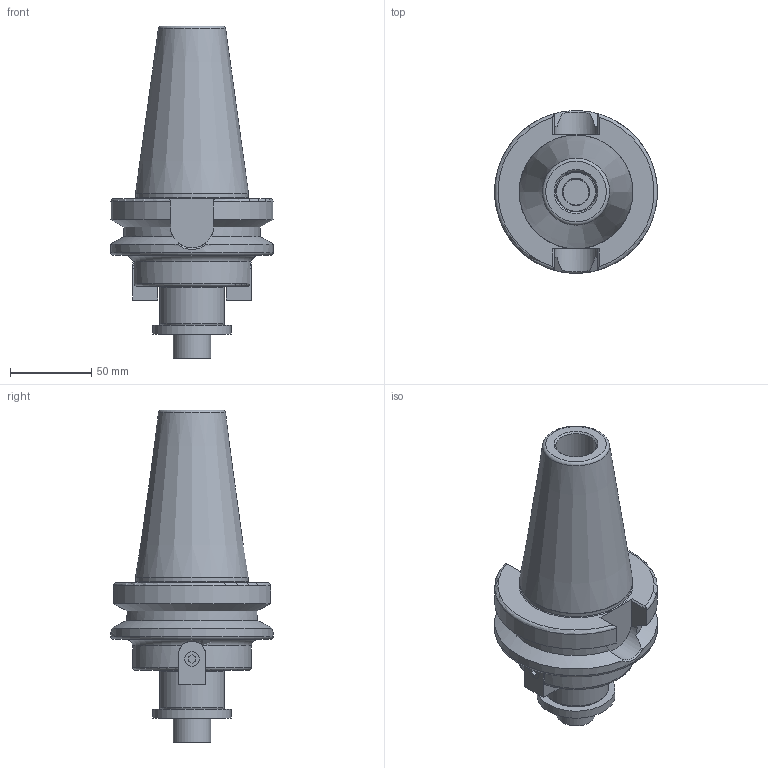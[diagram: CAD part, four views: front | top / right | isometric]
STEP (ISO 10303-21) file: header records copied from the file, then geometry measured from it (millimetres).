
FILE_DESCRIPTION(/* description */ (''),/* implementation_level */ '2;1');
FILE_NAME(/* name */ 'Z:\Проектный отдел\Алена\Оправка фрезерная (патрон) BT50-FMB40-60\BT50-FMB40-60.stp',/* time_stamp */ '2024-01-29T10:18:12+03:00',/* author */ ('User'),/* organization */ (''),/* preprocessor_version */ 'ST-DEVELOPER v18',/* originating_system */ 'Autodesk Inventor 2020',/* authorisation */ '');
FILE_SCHEMA (('AUTOMOTIVE_DESIGN { 1 0 10303 214 3 1 1 }'));
Length unit declared in the file: millimetre
Products named in the file (4): BT50-FMB40-60; BT50-FMB32-60; шайба; юболт
Assembly tree (3 placements, depth 2):
  BT50-FMB40-60
    BT50-FMB32-60
    шайба
    юболт
Bounding box: 100 x 100 x 204 mm (x, y, z)
Volume: 560021 mm3; surface area: 75969.9 mm2
Topology: 3 solids, 3 shells, 107 faces, 284 edges, 194 vertices
Faces by surface type: plane 63, cylinder 24, torus 10, cone 8, bspline 2
Full cylindrical faces by diameter (mm): 8.8 x2, 16 x1, 16.5 x1, 17 x1, 23 x1, 24 x1, 25 x1, 40 x1, 48 x1, 69 x1, 100 x1
Entity records: 3797 total; most frequent: CARTESIAN_POINT 909, ORIENTED_EDGE 568, DIRECTION 566, EDGE_CURVE 284, AXIS2_PLACEMENT_3D 209, VERTEX_POINT 194, LINE 148, VECTOR 148
